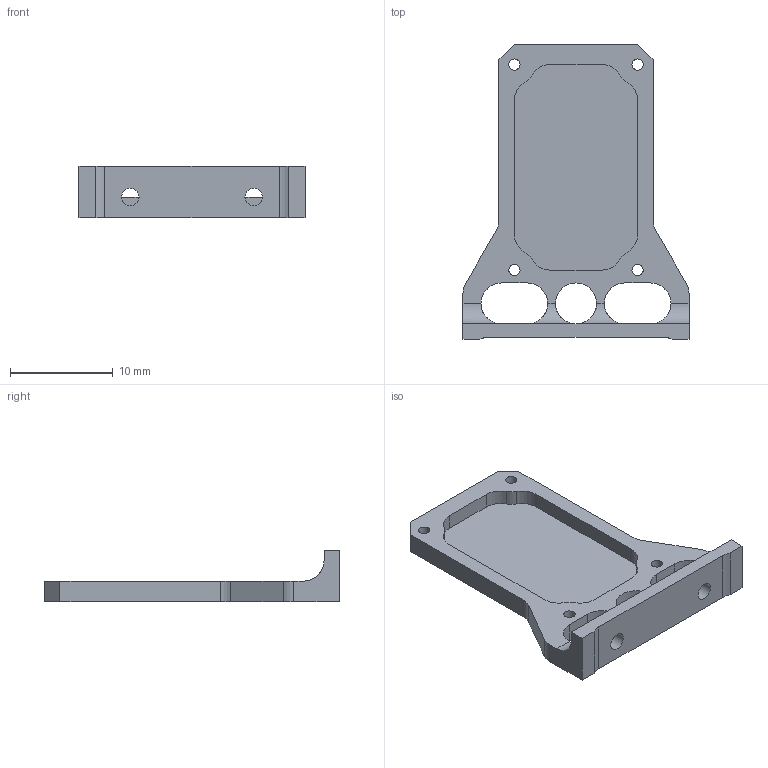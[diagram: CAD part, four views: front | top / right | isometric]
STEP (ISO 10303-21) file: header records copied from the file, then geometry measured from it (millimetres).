
FILE_DESCRIPTION(/* description */ (''),/* implementation_level */ '2;1');
FILE_NAME(/* name */ 'P183223A_VOL-001.stp',/* time_stamp */ '2025-01-08T15:05:05+01:00',/* author */ (''),/* organization */ ('JPE'),/* preprocessor_version */ 'ST-DEVELOPER v20',/* originating_system */ 'SIEMENS PLM Software NX2406.6001',/* authorisation */ '');
FILE_SCHEMA (('AUTOMOTIVE_DESIGN { 1 0 10303 214 3 1 1 1 }'));
Length unit declared in the file: millimetre
Products named in the file (2): P183223A; P183223A_BRO-001a
Assembly tree (1 placements, depth 2):
  P183223A_BRO-001a
    P183223A
Bounding box: 22 x 28.7 x 5 mm (x, y, z)
Volume: 592.5 mm3; surface area: 1378.2 mm2
Topology: 1 solids, 1 shells, 56 faces, 172 edges, 116 vertices
Faces by surface type: cylinder 33, plane 23
Full cylindrical faces by diameter (mm): 1.1 x4, 1.7 x2, 4 x1
Entity records: 1945 total; most frequent: DIRECTION 341, CARTESIAN_POINT 327, ORIENTED_EDGE 318, EDGE_CURVE 159, AXIS2_PLACEMENT_3D 124, VERTEX_POINT 110, LINE 93, VECTOR 93
